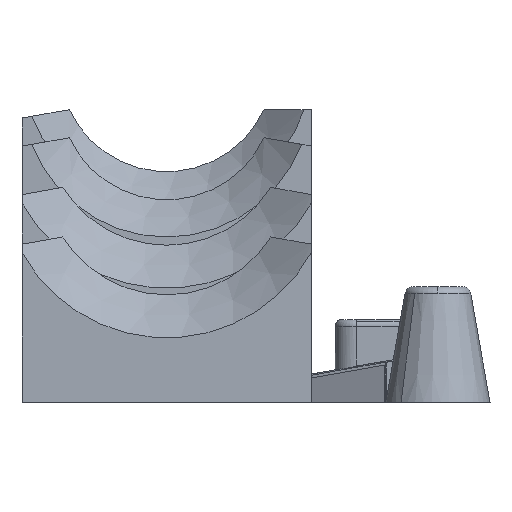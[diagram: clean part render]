
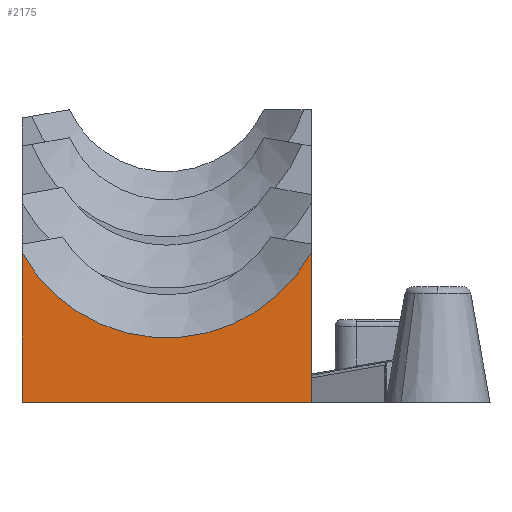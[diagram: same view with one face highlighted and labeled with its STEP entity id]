
A CAD part, left-side view. The second image highlights one B-rep face of the part: STEP entity #2175.
In plain terms, the highlighted planar face has unit normal (-1, 0, 0).
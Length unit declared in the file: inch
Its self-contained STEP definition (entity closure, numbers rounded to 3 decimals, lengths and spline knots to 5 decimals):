
#1964=CARTESIAN_POINT('',(12.93451,2.49117,0.18118));
#1965=VERTEX_POINT('',#1964);
#1979=CARTESIAN_POINT('',(12.93451,2.14117,0.18118));
#1980=VERTEX_POINT('',#1979);
#1981=CARTESIAN_POINT('',(12.93451,2.31617,0.278));
#1982=DIRECTION('',(1.0,0.0,0.0));
#1983=DIRECTION('',(0.0,-1.0,0.0));
#1984=AXIS2_PLACEMENT_3D('',#1981,#1982,#1983);
#1985=CIRCLE('',#1984,0.2);
#1986=EDGE_CURVE('',#1980,#1965,#1985,.T.);
#2090=CARTESIAN_POINT('',(12.93451,2.14117,0.0));
#2091=VERTEX_POINT('',#2090);
#2092=CARTESIAN_POINT('',(12.93451,2.14117,0.0));
#2093=DIRECTION('',(0.0,0.0,1.0));
#2094=VECTOR('',#2093,0.18118);
#2095=LINE('',#2092,#2094);
#2096=EDGE_CURVE('',#2091,#1980,#2095,.T.);
#2141=CARTESIAN_POINT('',(12.93451,2.49117,0.0));
#2142=VERTEX_POINT('',#2141);
#2149=CARTESIAN_POINT('',(12.93451,2.49117,0.0));
#2150=DIRECTION('',(0.0,0.0,1.0));
#2151=VECTOR('',#2150,0.18118);
#2152=LINE('',#2149,#2151);
#2153=EDGE_CURVE('',#2142,#1965,#2152,.T.);
#2159=CARTESIAN_POINT('',(12.93451,2.14117,0.0));
#2160=DIRECTION('',(-1.0,0.0,0.0));
#2161=DIRECTION('',(0.0,0.0,1.0));
#2162=AXIS2_PLACEMENT_3D('',#2159,#2160,#2161);
#2163=PLANE('',#2162);
#2164=ORIENTED_EDGE('',*,*,#1986,.T.);
#2165=ORIENTED_EDGE('',*,*,#2153,.F.);
#2166=CARTESIAN_POINT('',(12.93451,2.14117,0.0));
#2167=DIRECTION('',(0.0,1.0,0.0));
#2168=VECTOR('',#2167,0.35);
#2169=LINE('',#2166,#2168);
#2170=EDGE_CURVE('',#2091,#2142,#2169,.T.);
#2171=ORIENTED_EDGE('',*,*,#2170,.F.);
#2172=ORIENTED_EDGE('',*,*,#2096,.T.);
#2173=EDGE_LOOP('',(#2164,#2165,#2171,#2172));
#2174=FACE_OUTER_BOUND('',#2173,.T.);
#2175=ADVANCED_FACE('',(#2174),#2163,.T.);
